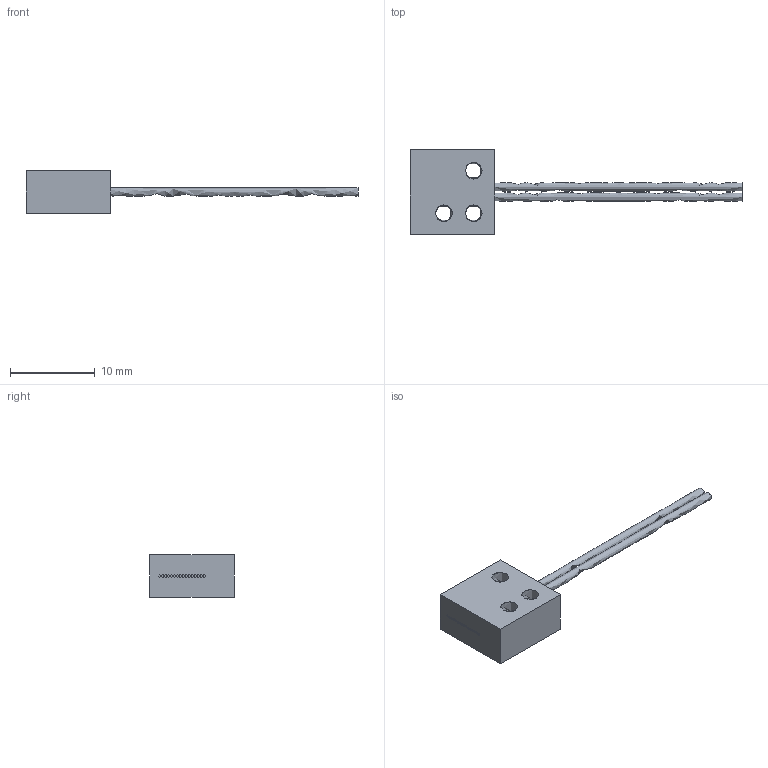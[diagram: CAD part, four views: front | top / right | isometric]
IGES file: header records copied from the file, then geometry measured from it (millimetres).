
Global section: file name: e:\Temp\web_kf_et_10ml_20.igs; native system: NX V6.0; preprocessor: SIEMENS UGS NX 6.0; date: 20130110.103204; units: millimetre
Bounding box: 39.1 x 10 x 5 mm (x, y, z)
Surface area: 659.9 mm2 (no closed solid volume)
Topology: 0 solids, 0 shells, 76 faces, 1300 edges, 2026 vertices
Faces by surface type: bspline 76
